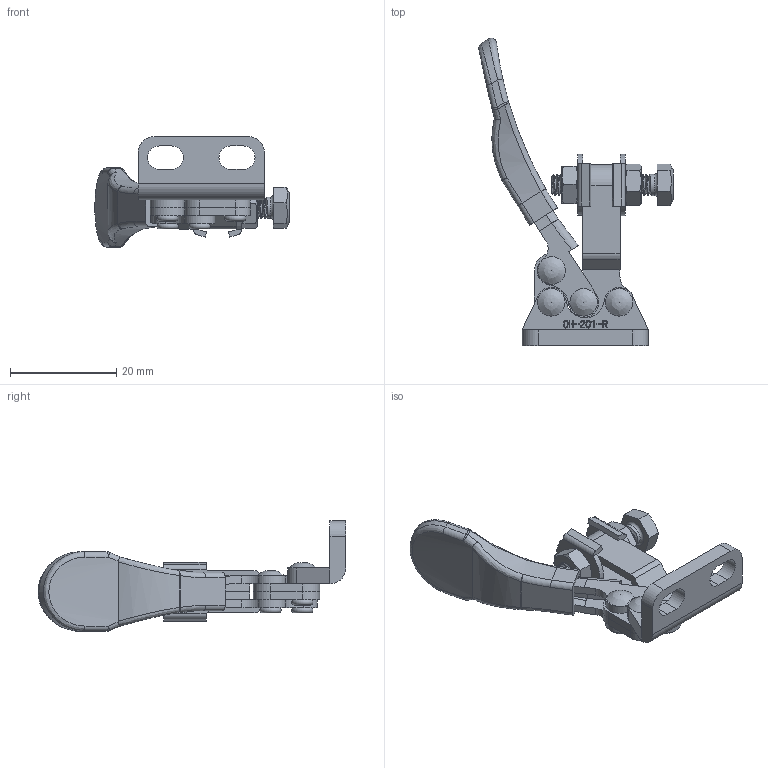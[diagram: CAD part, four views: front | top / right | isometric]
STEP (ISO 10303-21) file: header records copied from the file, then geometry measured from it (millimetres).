
FILE_DESCRIPTION(/* description */ ('STEP AP203'),/* implementation_level */ '2;1');
FILE_NAME(/* name */ 'E:\STRONA\Horizontal toggle clamp\CH-201-R\CH-201-R_OTWARTY.stp',/* time_stamp */ '2019-01-15T13:18:35+01:00',/* author */ ('Admin'),/* organization */ ('·L?¤¤?'),/* preprocessor_version */ 'ST-DEVELOPER v17.2',/* originating_system */ 'Autodesk Inventor 2019',/* authorisation */ '');
FILE_SCHEMA (('AUTOMOTIVE_DESIGN { 1 0 10303 214 3 1 1 }'));
Products named in the file (11): CH-201-R_OTWARTY; 201-02___; CH-SA-042007___; M4___; CH-FW-080___; 201-R-01___; 201-06___; 201-A-04___; 201-03___; 201-05___; 201-A-03___
Assembly tree (16 placements, depth 3):
  CH-201-R_OTWARTY
    201-02___
    201-06___  x4
    CH-SA-042007___
    M4___  x2
    201-A-04___  x2
    CH-FW-080___  x2
    201-R-01___
    201-03___
      201-05___
      201-A-03___
Bounding box: 36.63 x 58.02 x 20.86 mm (x, y, z)
Volume: 4567 mm3; surface area: 8036.2 mm2
Topology: 16 solids, 16 shells, 642 faces, 1755 edges, 1169 vertices
Faces by surface type: plane 275, bspline 195, cylinder 133, torus 19, cone 14, sphere 6
Full cylindrical faces by diameter (mm): 0.7 x1, 1.1 x1, 2.4 x4, 3 x18, 3.2 x4, 4 x26, 4.3 x2
Entity records: 47867 total; most frequent: CARTESIAN_POINT 33989, ORIENTED_EDGE 3168, DIRECTION 2176, EDGE_CURVE 1584, VERTEX_POINT 1056, LINE 846, VECTOR 846, AXIS2_PLACEMENT_3D 665
